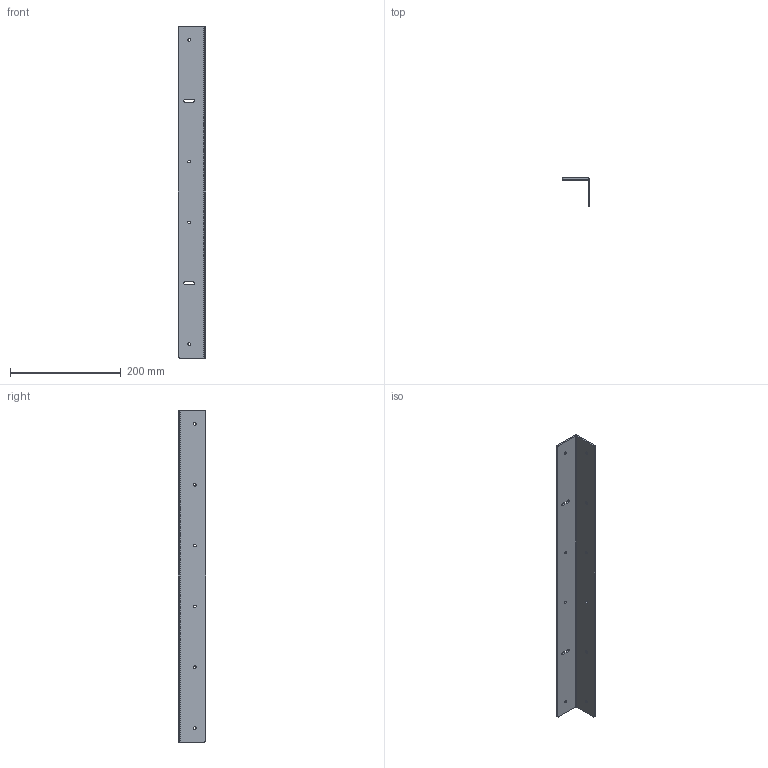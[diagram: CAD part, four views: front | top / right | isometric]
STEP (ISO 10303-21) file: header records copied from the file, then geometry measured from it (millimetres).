
FILE_DESCRIPTION (( 'STEP AP214' ), '1' );
FILE_NAME ('E445-600.STEP', '2025-06-10T02:37:57', ( '' ), ( '' ), 'SwSTEP 2.0', 'SolidWorks 2024', '' );
FILE_SCHEMA (( 'AUTOMOTIVE_DESIGN' ));
Length unit declared in the file: millimetre
Products named in the file (1): E445-600
Bounding box: 50 x 50 x 600 mm (x, y, z)
Volume: 171874.8 mm3; surface area: 119490.1 mm2
Topology: 1 solids, 1 shells, 42 faces, 120 edges, 80 vertices
Faces by surface type: cylinder 30, plane 12
Entity records: 1475 total; most frequent: DIRECTION 266, CARTESIAN_POINT 243, ORIENTED_EDGE 240, EDGE_CURVE 120, AXIS2_PLACEMENT_3D 103, VERTEX_POINT 80, EDGE_LOOP 66, CIRCLE 60
